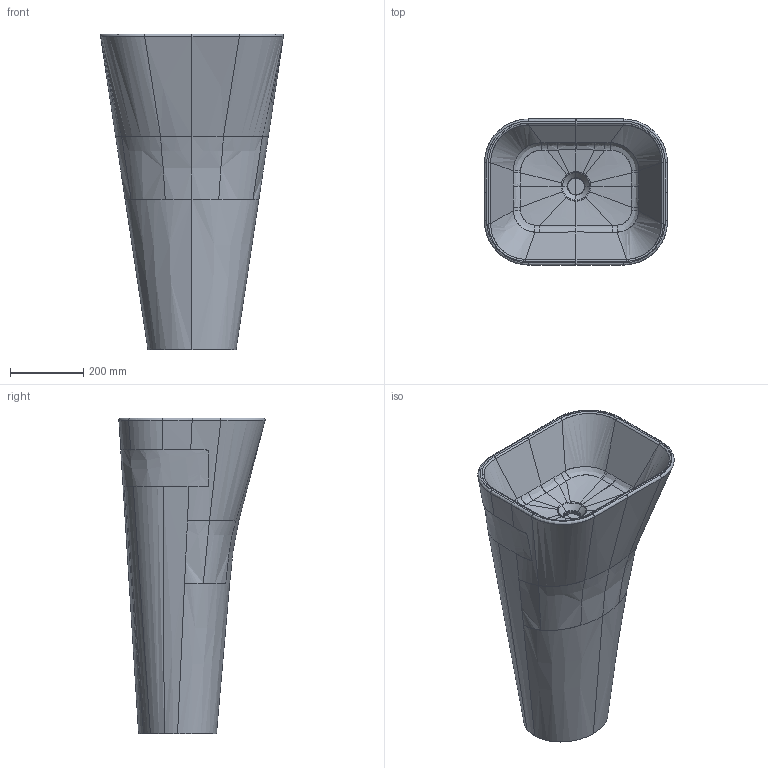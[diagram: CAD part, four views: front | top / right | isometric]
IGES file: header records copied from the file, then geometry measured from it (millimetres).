
Start section: START RECORD GO HERE.
Global section: file name: 3D ART 5405 Monolite MEG.igs; native system: DASSAULT SYSTEMES CATIA V5 R19 - www.3ds.com; preprocessor: CATIA Version 5 Release 19 SP 5 ; author: Luca; organization: DESKTOP-V7SON24; date: 20201008.111726; units: millimetre
Bounding box: 498.29 x 397.89 x 860 mm (x, y, z)
Surface area: 1290857.5 mm2 (no closed solid volume)
Topology: 0 solids, 0 shells, 146 faces, 736 edges, 736 vertices
Faces by surface type: bspline 122, revolution 16, plane 8
